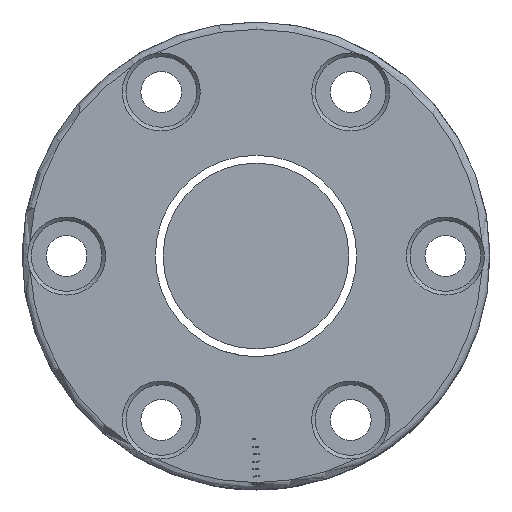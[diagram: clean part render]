
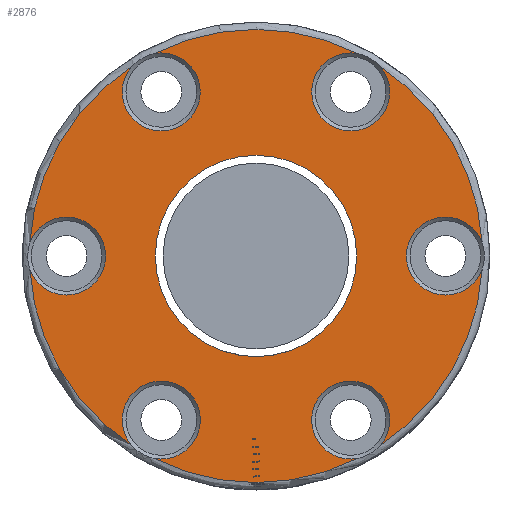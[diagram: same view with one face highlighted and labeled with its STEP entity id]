
A CAD part, left-side view. The second image highlights one B-rep face of the part: STEP entity #2876.
In plain terms, the highlighted planar face has unit normal (-1, 0, 0).
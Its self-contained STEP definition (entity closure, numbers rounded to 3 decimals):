
#10 = DIRECTION ( 'NONE',  ( -1., 0., 0. ) ) ;
#15 = VERTEX_POINT ( 'NONE', #2184 ) ;
#36 = VERTEX_POINT ( 'NONE', #3369 ) ;
#111 = AXIS2_PLACEMENT_3D ( 'NONE', #1269, #3614, #3020 ) ;
#112 = DIRECTION ( 'NONE',  ( 0., -1., 0. ) ) ;
#116 = EDGE_LOOP ( 'NONE', ( #3300 ) ) ;
#119 = CIRCLE ( 'NONE', #2863, 30.5 ) ;
#150 = AXIS2_PLACEMENT_3D ( 'NONE', #592, #2133, #2440 ) ;
#183 = AXIS2_PLACEMENT_3D ( 'NONE', #517, #1173, #2340 ) ;
#271 = EDGE_CURVE ( 'NONE', #3170, #646, #2171, .T. ) ;
#283 = FACE_OUTER_BOUND ( 'NONE', #3494, .T. ) ;
#304 = PLANE ( 'NONE',  #3165 ) ;
#452 = VERTEX_POINT ( 'NONE', #1999 ) ;
#504 = DIRECTION ( 'NONE',  ( 1., 0., 0. ) ) ;
#517 = CARTESIAN_POINT ( 'NONE',  ( -51., 0., 0. ) ) ;
#558 = EDGE_CURVE ( 'NONE', #1809, #1016, #3774, .T. ) ;
#575 = VERTEX_POINT ( 'NONE', #3094 ) ;
#578 = DIRECTION ( 'NONE',  ( -1., 0., 0. ) ) ;
#592 = CARTESIAN_POINT ( 'NONE',  ( -51., 0., 0. ) ) ;
#595 = EDGE_CURVE ( 'NONE', #912, #912, #2472, .T. ) ;
#646 = VERTEX_POINT ( 'NONE', #1911 ) ;
#705 = DIRECTION ( 'NONE',  ( 1., 0., 0. ) ) ;
#721 = DIRECTION ( 'NONE',  ( 0., 1., 0. ) ) ;
#782 = DIRECTION ( 'NONE',  ( -1., 0., 0. ) ) ;
#803 = EDGE_CURVE ( 'NONE', #3071, #1809, #3468, .T. ) ;
#805 = AXIS2_PLACEMENT_3D ( 'NONE', #3672, #2844, #1639 ) ;
#874 = DIRECTION ( 'NONE',  ( -1., 0., 0. ) ) ;
#912 = VERTEX_POINT ( 'NONE', #3283 ) ;
#916 = EDGE_CURVE ( 'NONE', #575, #1777, #3509, .T. ) ;
#986 = AXIS2_PLACEMENT_3D ( 'NONE', #1308, #1517, #2122 ) ;
#1016 = VERTEX_POINT ( 'NONE', #2587 ) ;
#1047 = CIRCLE ( 'NONE', #183, 30.5 ) ;
#1131 = FACE_BOUND ( 'NONE', #116, .T. ) ;
#1162 = ORIENTED_EDGE ( 'NONE', *, *, #3666, .T. ) ;
#1173 = DIRECTION ( 'NONE',  ( -1., 0., 0. ) ) ;
#1185 = DIRECTION ( 'NONE',  ( 0., -1., 0. ) ) ;
#1204 = ORIENTED_EDGE ( 'NONE', *, *, #2533, .T. ) ;
#1269 = CARTESIAN_POINT ( 'NONE',  ( -51., -25.5, 0. ) ) ;
#1294 = EDGE_CURVE ( 'NONE', #15, #575, #1838, .T. ) ;
#1306 = AXIS2_PLACEMENT_3D ( 'NONE', #3442, #782, #1969 ) ;
#1308 = CARTESIAN_POINT ( 'NONE',  ( -51., 25.5, 0. ) ) ;
#1359 = ORIENTED_EDGE ( 'NONE', *, *, #1294, .T. ) ;
#1455 = CARTESIAN_POINT ( 'NONE',  ( -51., 31.5, 0. ) ) ;
#1471 = DIRECTION ( 'NONE',  ( 0., -1., 0. ) ) ;
#1475 = DIRECTION ( 'NONE',  ( 0., -1., 0. ) ) ;
#1517 = DIRECTION ( 'NONE',  ( 1., 0., 0. ) ) ;
#1551 = CIRCLE ( 'NONE', #3044, 5.25 ) ;
#1621 = CIRCLE ( 'NONE', #3720, 30.5 ) ;
#1639 = DIRECTION ( 'NONE',  ( 0., -1., 0. ) ) ;
#1658 = DIRECTION ( 'NONE',  ( 1., 0., 0. ) ) ;
#1716 = DIRECTION ( 'NONE',  ( 1., 0., 0. ) ) ;
#1768 = CARTESIAN_POINT ( 'NONE',  ( -51., 13.709, 27.245 ) ) ;
#1770 = CARTESIAN_POINT ( 'NONE',  ( -51., -12.75, 22.084 ) ) ;
#1777 = VERTEX_POINT ( 'NONE', #3093 ) ;
#1798 = ORIENTED_EDGE ( 'NONE', *, *, #558, .T. ) ;
#1809 = VERTEX_POINT ( 'NONE', #3612 ) ;
#1838 = CIRCLE ( 'NONE', #150, 30.5 ) ;
#1911 = CARTESIAN_POINT ( 'NONE',  ( -51., -16.74, 25.495 ) ) ;
#1969 = DIRECTION ( 'NONE',  ( 0., -1., 0. ) ) ;
#1980 = CARTESIAN_POINT ( 'NONE',  ( -51., -30.45, 1.75 ) ) ;
#1999 = CARTESIAN_POINT ( 'NONE',  ( -51., -13.709, -27.245 ) ) ;
#2006 = ORIENTED_EDGE ( 'NONE', *, *, #2580, .T. ) ;
#2015 = ORIENTED_EDGE ( 'NONE', *, *, #803, .T. ) ;
#2122 = DIRECTION ( 'NONE',  ( 0., -1., 0. ) ) ;
#2133 = DIRECTION ( 'NONE',  ( -1., 0., 0. ) ) ;
#2171 = CIRCLE ( 'NONE', #1306, 30.5 ) ;
#2184 = CARTESIAN_POINT ( 'NONE',  ( -51., 30.45, -1.75 ) ) ;
#2214 = CARTESIAN_POINT ( 'NONE',  ( -51., 0., 0. ) ) ;
#2242 = ORIENTED_EDGE ( 'NONE', *, *, #916, .T. ) ;
#2289 = ORIENTED_EDGE ( 'NONE', *, *, #2583, .T. ) ;
#2340 = DIRECTION ( 'NONE',  ( 0., -1., 0. ) ) ;
#2365 = CARTESIAN_POINT ( 'NONE',  ( -51., -16.74, -25.495 ) ) ;
#2440 = DIRECTION ( 'NONE',  ( 0., -1., 0. ) ) ;
#2472 = CIRCLE ( 'NONE', #2788, 13.55 ) ;
#2533 = EDGE_CURVE ( 'NONE', #3456, #3170, #3588, .T. ) ;
#2580 = EDGE_CURVE ( 'NONE', #452, #2759, #2916, .T. ) ;
#2583 = EDGE_CURVE ( 'NONE', #1016, #15, #3343, .T. ) ;
#2587 = CARTESIAN_POINT ( 'NONE',  ( -51., 30.45, 1.75 ) ) ;
#2684 = CARTESIAN_POINT ( 'NONE',  ( -51., 0., 0. ) ) ;
#2700 = AXIS2_PLACEMENT_3D ( 'NONE', #3244, #1716, #1471 ) ;
#2759 = VERTEX_POINT ( 'NONE', #2365 ) ;
#2786 = ORIENTED_EDGE ( 'NONE', *, *, #271, .T. ) ;
#2788 = AXIS2_PLACEMENT_3D ( 'NONE', #2214, #504, #721 ) ;
#2844 = DIRECTION ( 'NONE',  ( -1., 0., 0. ) ) ;
#2863 = AXIS2_PLACEMENT_3D ( 'NONE', #3571, #10, #1475 ) ;
#2876 = ADVANCED_FACE ( 'NONE', ( #283, #1131 ), #304, .T. ) ;
#2916 = CIRCLE ( 'NONE', #3101, 5.25 ) ;
#2938 = DIRECTION ( 'NONE',  ( 1., 0., 0. ) ) ;
#3020 = DIRECTION ( 'NONE',  ( 0., -1., 0. ) ) ;
#3023 = ORIENTED_EDGE ( 'NONE', *, *, #3671, .T. ) ;
#3039 = DIRECTION ( 'NONE',  ( 0., -1., 0. ) ) ;
#3044 = AXIS2_PLACEMENT_3D ( 'NONE', #1770, #2938, #1185 ) ;
#3071 = VERTEX_POINT ( 'NONE', #1768 ) ;
#3093 = CARTESIAN_POINT ( 'NONE',  ( -51., 13.709, -27.245 ) ) ;
#3094 = CARTESIAN_POINT ( 'NONE',  ( -51., 16.74, -25.495 ) ) ;
#3100 = AXIS2_PLACEMENT_3D ( 'NONE', #3134, #1658, #112 ) ;
#3101 = AXIS2_PLACEMENT_3D ( 'NONE', #3326, #705, #3039 ) ;
#3134 = CARTESIAN_POINT ( 'NONE',  ( -51., 12.75, 22.084 ) ) ;
#3165 = AXIS2_PLACEMENT_3D ( 'NONE', #1455, #874, #3517 ) ;
#3170 = VERTEX_POINT ( 'NONE', #1980 ) ;
#3244 = CARTESIAN_POINT ( 'NONE',  ( -51., 12.75, -22.084 ) ) ;
#3264 = EDGE_CURVE ( 'NONE', #36, #3071, #1047, .T. ) ;
#3283 = CARTESIAN_POINT ( 'NONE',  ( -51., 13.55, 0. ) ) ;
#3300 = ORIENTED_EDGE ( 'NONE', *, *, #595, .T. ) ;
#3326 = CARTESIAN_POINT ( 'NONE',  ( -51., -12.75, -22.084 ) ) ;
#3343 = CIRCLE ( 'NONE', #986, 5.25 ) ;
#3369 = CARTESIAN_POINT ( 'NONE',  ( -51., -13.709, 27.245 ) ) ;
#3442 = CARTESIAN_POINT ( 'NONE',  ( -51., 0., 0. ) ) ;
#3456 = VERTEX_POINT ( 'NONE', #3484 ) ;
#3468 = CIRCLE ( 'NONE', #3100, 5.25 ) ;
#3484 = CARTESIAN_POINT ( 'NONE',  ( -51., -30.45, -1.75 ) ) ;
#3494 = EDGE_LOOP ( 'NONE', ( #1204, #2786, #1162, #3762, #2015, #1798, #2289, #1359, #2242, #3023, #2006, #3744 ) ) ;
#3509 = CIRCLE ( 'NONE', #2700, 5.25 ) ;
#3517 = DIRECTION ( 'NONE',  ( 0., -1., 0. ) ) ;
#3553 = DIRECTION ( 'NONE',  ( 0., -1., 0. ) ) ;
#3571 = CARTESIAN_POINT ( 'NONE',  ( -51., 0., 0. ) ) ;
#3588 = CIRCLE ( 'NONE', #111, 5.25 ) ;
#3612 = CARTESIAN_POINT ( 'NONE',  ( -51., 16.74, 25.495 ) ) ;
#3614 = DIRECTION ( 'NONE',  ( 1., 0., 0. ) ) ;
#3666 = EDGE_CURVE ( 'NONE', #646, #36, #1551, .T. ) ;
#3671 = EDGE_CURVE ( 'NONE', #1777, #452, #1621, .T. ) ;
#3672 = CARTESIAN_POINT ( 'NONE',  ( -51., 0., 0. ) ) ;
#3720 = AXIS2_PLACEMENT_3D ( 'NONE', #2684, #578, #3553 ) ;
#3744 = ORIENTED_EDGE ( 'NONE', *, *, #3790, .T. ) ;
#3762 = ORIENTED_EDGE ( 'NONE', *, *, #3264, .T. ) ;
#3774 = CIRCLE ( 'NONE', #805, 30.5 ) ;
#3790 = EDGE_CURVE ( 'NONE', #2759, #3456, #119, .T. ) ;
